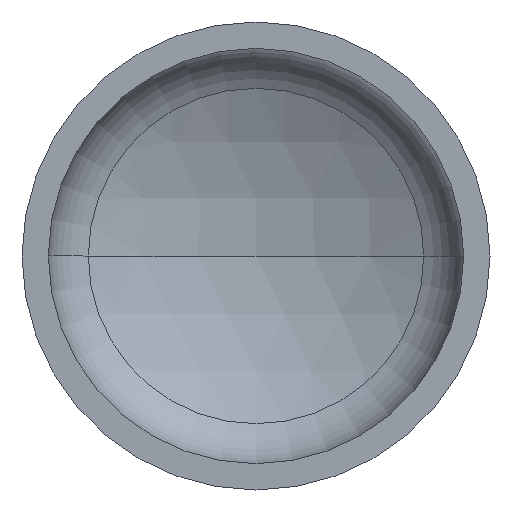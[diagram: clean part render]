
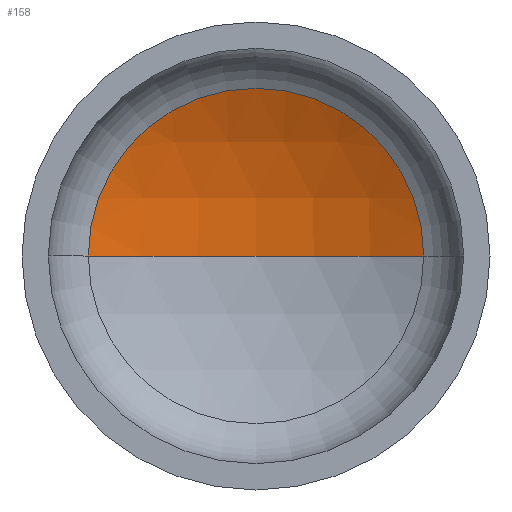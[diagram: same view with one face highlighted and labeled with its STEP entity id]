
A CAD part, front view. The second image highlights one B-rep face of the part: STEP entity #158.
In plain terms, the highlighted spherical face has radius 880 mm.
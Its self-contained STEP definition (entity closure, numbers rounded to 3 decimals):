
#16 = VERTEX_POINT ( 'NONE', #135 ) ;
#19 = AXIS2_PLACEMENT_3D ( 'NONE', #199, #97, #292 ) ;
#22 = AXIS2_PLACEMENT_3D ( 'NONE', #256, #409, #121 ) ;
#25 = AXIS2_PLACEMENT_3D ( 'NONE', #410, #276, #77 ) ;
#27 = AXIS2_PLACEMENT_3D ( 'NONE', #314, #226, #250 ) ;
#64 = EDGE_CURVE ( 'NONE', #125, #16, #243, .T. ) ;
#65 = CARTESIAN_POINT ( 'NONE',  ( 394.141, 271.995, 0. ) ) ;
#68 = EDGE_CURVE ( 'NONE', #105, #125, #349, .T. ) ;
#73 = ORIENTED_EDGE ( 'NONE', *, *, #79, .F. ) ;
#77 = DIRECTION ( 'NONE',  ( -1., 0., 0. ) ) ;
#79 = EDGE_CURVE ( 'NONE', #105, #16, #411, .T. ) ;
#80 = ORIENTED_EDGE ( 'NONE', *, *, #68, .T. ) ;
#97 = DIRECTION ( 'NONE',  ( 0., 0., -1. ) ) ;
#105 = VERTEX_POINT ( 'NONE', #169 ) ;
#121 = DIRECTION ( 'NONE',  ( 1., 0., 0. ) ) ;
#125 = VERTEX_POINT ( 'NONE', #65 ) ;
#135 = CARTESIAN_POINT ( 'NONE',  ( -394.141, 271.995, 0. ) ) ;
#158 = ADVANCED_FACE ( 'NONE', ( #343 ), #291, .F. ) ;
#169 = CARTESIAN_POINT ( 'NONE',  ( 0., 365.196, 0. ) ) ;
#182 = ORIENTED_EDGE ( 'NONE', *, *, #64, .T. ) ;
#199 = CARTESIAN_POINT ( 'NONE',  ( 0., -514.804, 0. ) ) ;
#226 = DIRECTION ( 'NONE',  ( 0., -1., 0. ) ) ;
#243 = CIRCLE ( 'NONE', #27, 394.141 ) ;
#250 = DIRECTION ( 'NONE',  ( 1., 0., 0. ) ) ;
#256 = CARTESIAN_POINT ( 'NONE',  ( 0., -514.804, 0. ) ) ;
#273 = EDGE_LOOP ( 'NONE', ( #73, #80, #182 ) ) ;
#276 = DIRECTION ( 'NONE',  ( 0., 0., -1. ) ) ;
#291 = SPHERICAL_SURFACE ( 'NONE', #19, 880. ) ;
#292 = DIRECTION ( 'NONE',  ( -1., 0., 0. ) ) ;
#314 = CARTESIAN_POINT ( 'NONE',  ( 0., 271.995, 0. ) ) ;
#343 = FACE_OUTER_BOUND ( 'NONE', #273, .T. ) ;
#349 = CIRCLE ( 'NONE', #25, 880. ) ;
#409 = DIRECTION ( 'NONE',  ( 0., 0., 1. ) ) ;
#410 = CARTESIAN_POINT ( 'NONE',  ( 0., -514.804, 0. ) ) ;
#411 = CIRCLE ( 'NONE', #22, 880. ) ;
